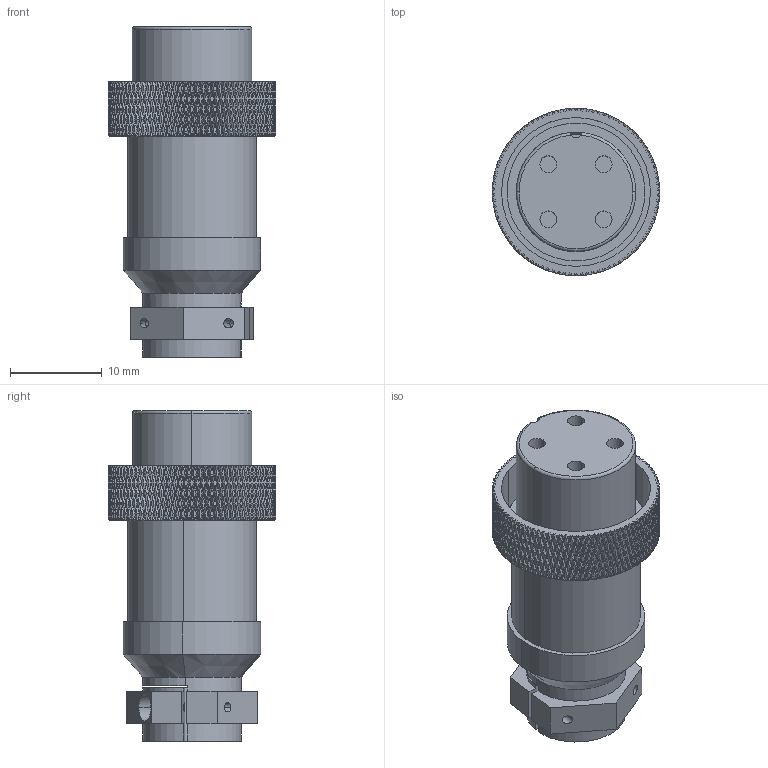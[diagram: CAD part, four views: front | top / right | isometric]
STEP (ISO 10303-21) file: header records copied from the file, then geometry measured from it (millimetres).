
FILE_DESCRIPTION (( 'STEP AP203' ), '1' );
FILE_NAME ('aviation plug GX16-6.STEP', '2021-09-21T15:00:49', ( '' ), ( '' ), 'SwSTEP 2.0', 'SolidWorks 2016', '' );
FILE_SCHEMA (( 'CONFIG_CONTROL_DESIGN' ));
Length unit declared in the file: millimetre
Products named in the file (1): aviation plug GX16-6
Bounding box: 18.2 x 18.2 x 36 mm (x, y, z)
Volume: 3298.4 mm3; surface area: 4981.8 mm2
Topology: 4 solids, 4 shells, 2832 faces, 6173 edges, 3362 vertices
Faces by surface type: bspline 2160, cylinder 597, plane 66, torus 5, cone 4
Entity records: 86808 total; most frequent: CARTESIAN_POINT 49956, ORIENTED_EDGE 12346, EDGE_CURVE 6173, VERTEX_POINT 3362, EDGE_LOOP 2857, FACE_OUTER_BOUND 2832, ADVANCED_FACE 2832, DIRECTION 2311
